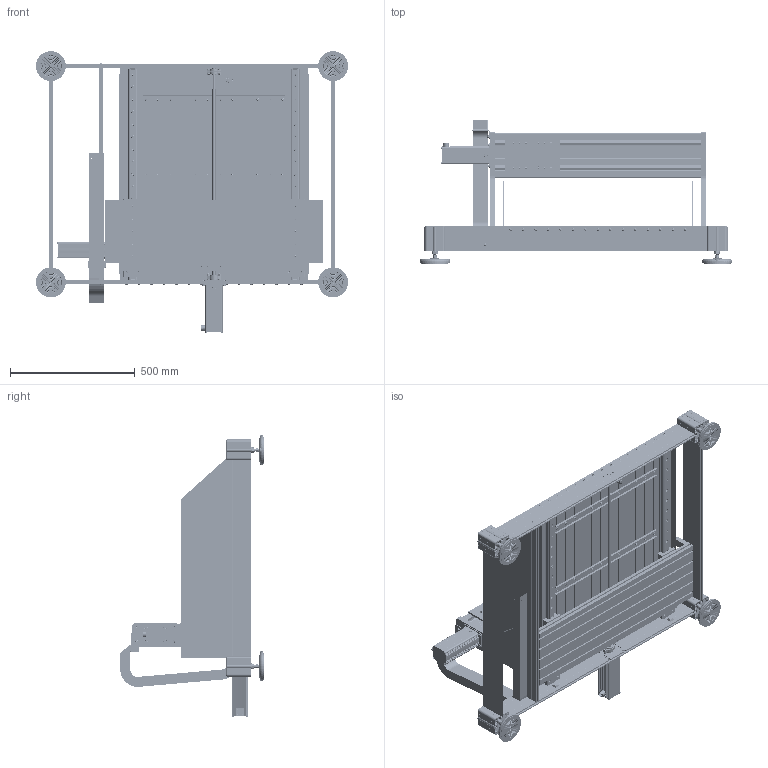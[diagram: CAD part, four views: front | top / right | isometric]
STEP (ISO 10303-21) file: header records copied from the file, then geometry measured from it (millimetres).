
FILE_DESCRIPTION (( 'STEP AP203' ), '1' );
FILE_NAME ('STEP_-_X-Y Flachbetteinheit FB2 - ArtNr 246203M.step', '2015-04-22T15:01:41', ( '' ), ( '' ), 'SwSTEP 2.0', 'SolidWorks 2014', '' );
FILE_SCHEMA (( 'CONFIG_CONTROL_DESIGN' ));
Products named in the file (6): Tisch 750x850; Tisch Baugruppe_750x850; X-Y-Achse f黵 Verfahrweg 530; TE0060 - Schlittenplatte Vorschub 175mm; TE0179 - F黨rungsschlitten_F乭rungsschlitten f乺 KG-Mutter Typ25; STEP_-_X-Y Flachbetteinheit FB2 - ArtNr 246203M
Assembly tree (6 placements, depth 3):
  STEP_-_X-Y Flachbetteinheit FB2 - ArtNr 246203M
    Tisch Baugruppe_750x850
      Tisch 750x850
    X-Y-Achse f黵 Verfahrweg 530
    TE0060 - Schlittenplatte Vorschub 175mm
    TE0179 - F黨rungsschlitten_F乭rungsschlitten f乺 KG-Mutter Typ25  x2
Bounding box: 1250 x 574.4 x 1128.3 mm (x, y, z)
Volume: 24989698.1 mm3; surface area: 15522002 mm2
Topology: 388 solids, 388 shells, 13374 faces, 34458 edges, 22258 vertices
Faces by surface type: plane 7580, cylinder 3849, cone 850, torus 538, bspline 421, sphere 136
Full cylindrical faces by diameter (mm): 1.5 x6, 2 x4, 2.33 x2, 2.4 x2, 2.5 x28, 3 x16, 3.2 x9, 4 x25, 4.2 x18, 4.5 x16, 4.6 x1, 4.8 x4, 5 x58, 5.2 x56, 5.5 x12, 6 x172, 6.1 x8, 6.35 x2, 6.4 x16, 6.5 x64, 6.6 x70, 7 x127, 7.2 x2, 7.5 x26, 8 x20, 8.5 x16, 9 x1, 9.2 x2, 9.8 x2, 10 x140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
Entity records: 432475 total; most frequent: CARTESIAN_POINT 130530, ORIENTED_EDGE 60700, DIRECTION 59604, EDGE_CURVE 30350, VERTEX_POINT 20932, AXIS2_PLACEMENT_3D 20924, VECTOR 17756, LINE 17756
